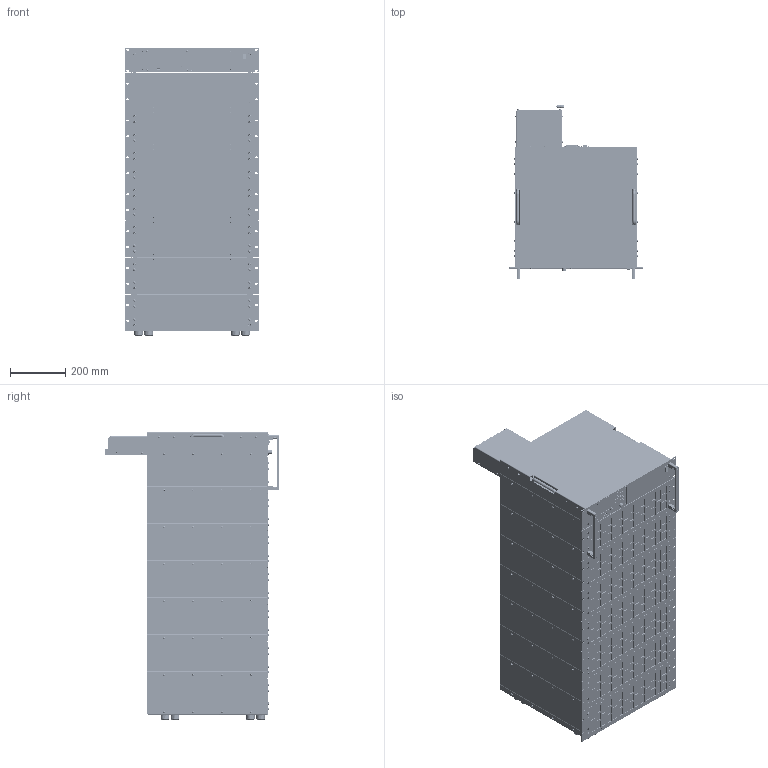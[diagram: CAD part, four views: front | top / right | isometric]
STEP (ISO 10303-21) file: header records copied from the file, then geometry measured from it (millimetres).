
FILE_DESCRIPTION(('STEP AP214'),'1');
FILE_NAME('PLI_M44_19Z_23HE_FKS40_12_SM12_BRB_3D_01.step','2019-02-22T10:01:01',(' '),(' '),'Spatial InterOp 3D',' ',' ');
FILE_SCHEMA(('AUTOMOTIVE_DESIGN { 1 0 10303 214 1 1 1 1 }'));
Length unit declared in the file: millimetre
Products named in the file (1): 1
Bounding box: 482.6 x 631.75 x 1039.48 mm (x, y, z)
Volume: 67408407.9 mm3; surface area: 10922104.1 mm2
Topology: 438 solids, 3053 shells, 31203 faces, 89137 edges, 61181 vertices
Faces by surface type: plane 17120, cone 8126, cylinder 5087, sphere 482, torus 360, bspline 26, extrusion 2
Entity records: 1302290 total; most frequent: CARTESIAN_POINT 190189, DIRECTION 186888, ORIENTED_EDGE 160124, EDGE_CURVE 88200, AXIS2_PLACEMENT_3D 64241, VERTEX_POINT 60042, VECTOR 58406, LINE 58404
